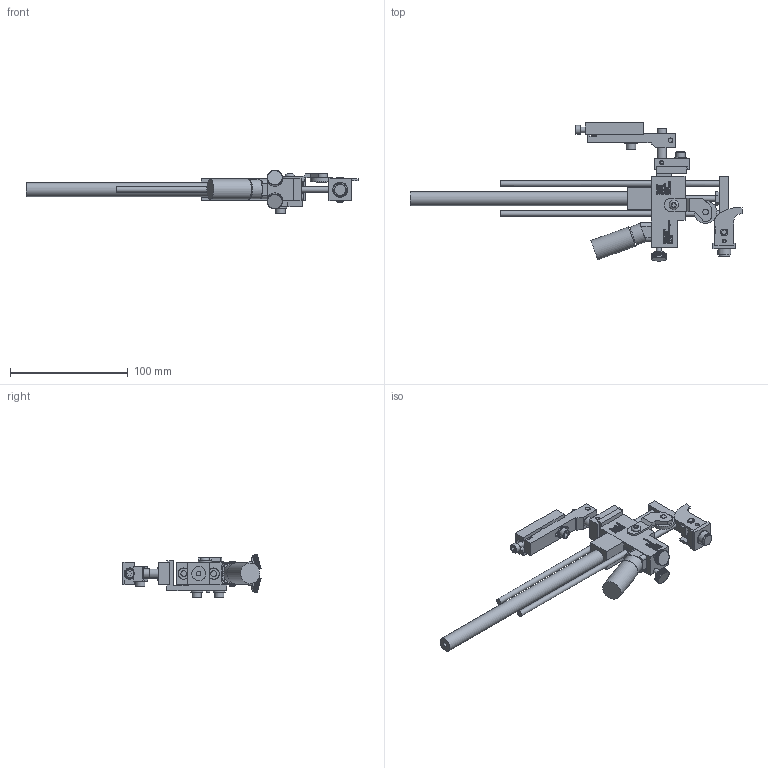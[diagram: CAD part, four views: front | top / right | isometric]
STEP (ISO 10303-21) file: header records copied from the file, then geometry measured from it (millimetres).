
FILE_DESCRIPTION((''),'2;1');
FILE_NAME('C:\Documents and Settings\Ron\My Documents\Inventor\Sprinter Drawing\Machines in Inventor\Model 44\Dot\3-eight\Ext Str\E4\Brkt\90\Model 44 E4 .375 dia dot 90 deg w Brkt.stp','2009-01-26T11:12:45',('Ron'),(''),'Autodesk Inventor 2008','Autodesk Inventor 2008','');
FILE_SCHEMA(('AUTOMOTIVE_DESIGN { 1 0 10303 214 1 1 1 1 }'));
Length unit declared in the file: inch
Products named in the file (1): Model 44 E4 .375 dia dot 90 deg w Brkt
Bounding box: 281.71 x 117.12 x 36.82 mm (x, y, z)
Volume: 119275.9 mm3; surface area: 57839.2 mm2
Topology: 30 solids, 30 shells, 6213 faces, 15415 edges, 9536 vertices
Faces by surface type: plane 4369, bspline 1319, cylinder 473, cone 46, torus 6
Full cylindrical faces by diameter (mm): 3.175 x4, 3.302 x1, 3.962 x1, 4.064 x7, 4.166 x1, 4.699 x1, 4.75 x4, 4.775 x1, 4.826 x7, 5.144 x1, 5.156 x5, 5.207 x2, 5.41 x2, 6.096 x1, 6.274 x2, 7.239 x1, 7.62 x1, 7.925 x7, 7.938 x1, 8.128 x1, 9.017 x1, 9.525 x3, 10.312 x4, 10.922 x1, 11.036 x1, 11.303 x1, 11.938 x2, 12.522 x1, 14.478 x1, 16.256 x1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
Entity records: 197827 total; most frequent: CARTESIAN_POINT 54112, ORIENTED_EDGE 30388, DIRECTION 23645, EDGE_CURVE 15194, VECTOR 11399, LINE 11399, VERTEX_POINT 9473, EDGE_LOOP 6777
